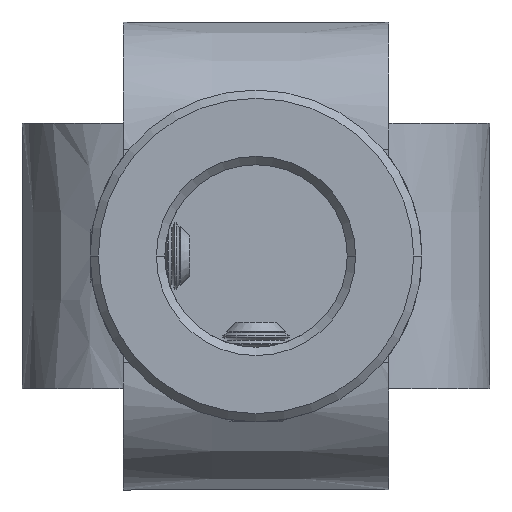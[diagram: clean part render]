
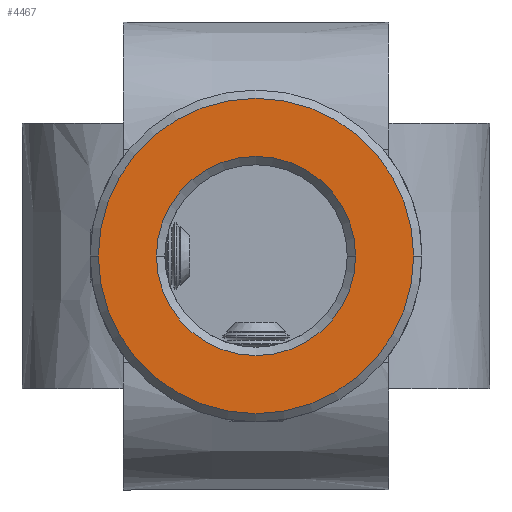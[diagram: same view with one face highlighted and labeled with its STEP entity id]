
A CAD part, front view. The second image highlights one B-rep face of the part: STEP entity #4467.
In plain terms, the highlighted planar face has unit normal (0, -1, 0).
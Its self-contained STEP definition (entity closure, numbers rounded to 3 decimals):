
#128 = CARTESIAN_POINT ( 'NONE',  ( -9.5, -35.24, 0. ) ) ;
#792 = DIRECTION ( 'NONE',  ( 0., -1., 0. ) ) ;
#1002 = DIRECTION ( 'NONE',  ( 0., 1., 0. ) ) ;
#1134 = EDGE_CURVE ( 'NONE', #3319, #1285, #7677, .T. ) ;
#1224 = AXIS2_PLACEMENT_3D ( 'NONE', #2730, #6232, #4746 ) ;
#1285 = VERTEX_POINT ( 'NONE', #3659 ) ;
#1296 = ORIENTED_EDGE ( 'NONE', *, *, #4418, .T. ) ;
#2453 = DIRECTION ( 'NONE',  ( -1., 0., 0. ) ) ;
#2730 = CARTESIAN_POINT ( 'NONE',  ( 0., -35.24, 0. ) ) ;
#3000 = ORIENTED_EDGE ( 'NONE', *, *, #7178, .T. ) ;
#3084 = CARTESIAN_POINT ( 'NONE',  ( 0., -35.24, 0. ) ) ;
#3125 = DIRECTION ( 'NONE',  ( 0., 1., 0. ) ) ;
#3188 = AXIS2_PLACEMENT_3D ( 'NONE', #4422, #3125, #2453 ) ;
#3319 = VERTEX_POINT ( 'NONE', #3512 ) ;
#3512 = CARTESIAN_POINT ( 'NONE',  ( -6., -35.24, 0. ) ) ;
#3597 = CARTESIAN_POINT ( 'NONE',  ( 9.5, -35.24, 0. ) ) ;
#3659 = CARTESIAN_POINT ( 'NONE',  ( 6., -35.24, 0. ) ) ;
#3814 = EDGE_LOOP ( 'NONE', ( #1296, #6051 ) ) ;
#3868 = AXIS2_PLACEMENT_3D ( 'NONE', #6359, #792, #4258 ) ;
#4207 = AXIS2_PLACEMENT_3D ( 'NONE', #3084, #5889, #7984 ) ;
#4258 = DIRECTION ( 'NONE',  ( -1., 0., 0. ) ) ;
#4418 = EDGE_CURVE ( 'NONE', #6390, #5518, #5243, .T. ) ;
#4422 = CARTESIAN_POINT ( 'NONE',  ( 0., -35.24, 0. ) ) ;
#4467 = ADVANCED_FACE ( 'NONE', ( #8286, #4804 ), #7272, .T. ) ;
#4746 = DIRECTION ( 'NONE',  ( -1., 0., 0. ) ) ;
#4804 = FACE_OUTER_BOUND ( 'NONE', #3814, .T. ) ;
#5208 = CIRCLE ( 'NONE', #1224, 9.5 ) ;
#5243 = CIRCLE ( 'NONE', #3868, 9.5 ) ;
#5518 = VERTEX_POINT ( 'NONE', #128 ) ;
#5857 = DIRECTION ( 'NONE',  ( -1., 0., 0. ) ) ;
#5889 = DIRECTION ( 'NONE',  ( 0., -1., 0. ) ) ;
#6051 = ORIENTED_EDGE ( 'NONE', *, *, #7748, .T. ) ;
#6232 = DIRECTION ( 'NONE',  ( 0., -1., 0. ) ) ;
#6359 = CARTESIAN_POINT ( 'NONE',  ( 0., -35.24, 0. ) ) ;
#6390 = VERTEX_POINT ( 'NONE', #3597 ) ;
#6592 = EDGE_LOOP ( 'NONE', ( #7366, #3000 ) ) ;
#7178 = EDGE_CURVE ( 'NONE', #1285, #3319, #8708, .T. ) ;
#7214 = CARTESIAN_POINT ( 'NONE',  ( 0., -35.24, 0. ) ) ;
#7272 = PLANE ( 'NONE',  #4207 ) ;
#7366 = ORIENTED_EDGE ( 'NONE', *, *, #1134, .T. ) ;
#7677 = CIRCLE ( 'NONE', #7915, 6. ) ;
#7748 = EDGE_CURVE ( 'NONE', #5518, #6390, #5208, .T. ) ;
#7915 = AXIS2_PLACEMENT_3D ( 'NONE', #7214, #1002, #5857 ) ;
#7984 = DIRECTION ( 'NONE',  ( -1., 0., 0. ) ) ;
#8286 = FACE_BOUND ( 'NONE', #6592, .T. ) ;
#8708 = CIRCLE ( 'NONE', #3188, 6. ) ;
